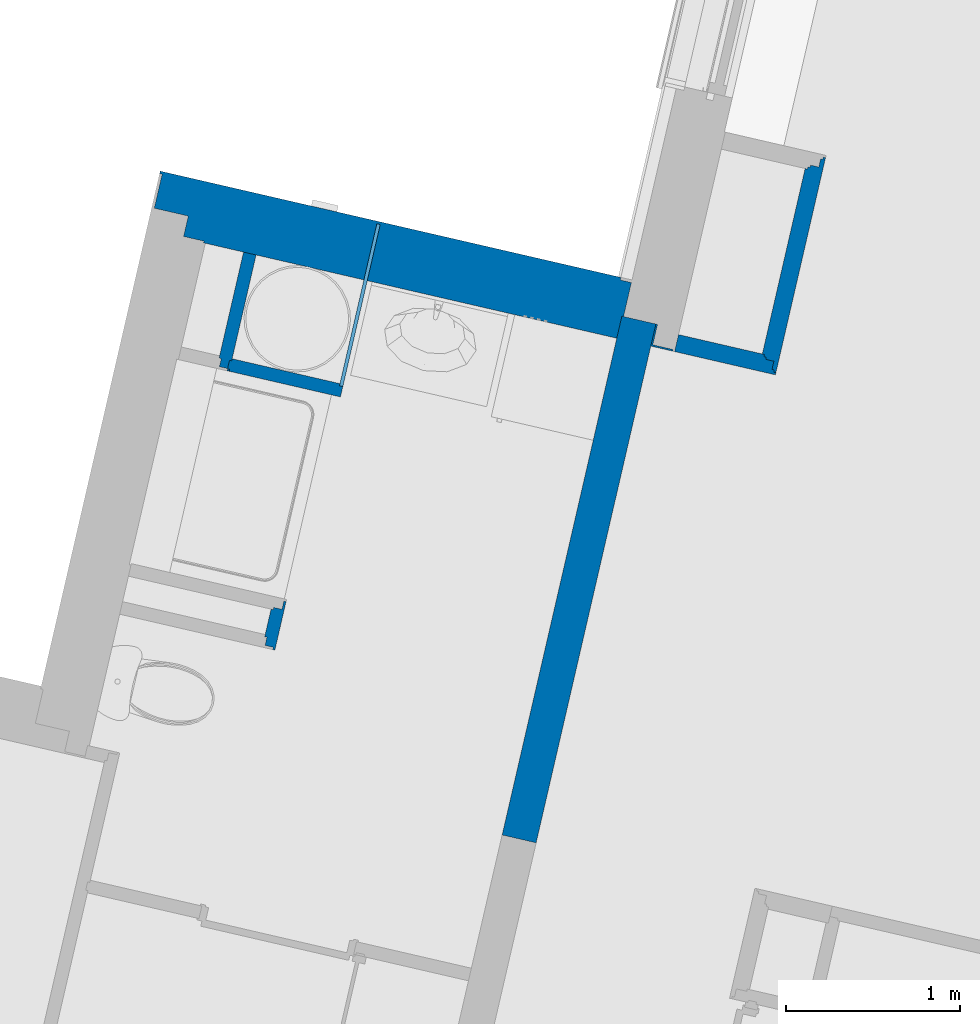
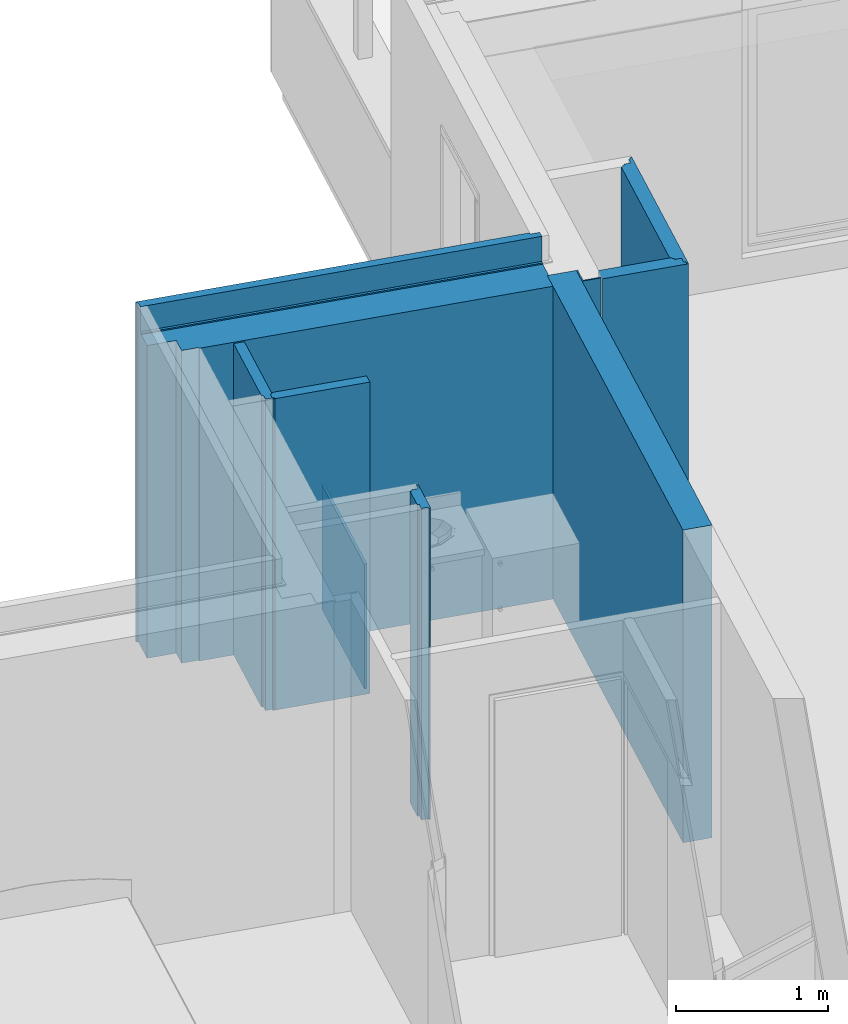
# One storey, part 32 of 62: 8 walls.
"""IFC2X3 building model written with IfcOpenShell, lengths in metres."""

from ifc_helpers import new_model, entity, si_unit, converted_unit, derived_unit, money_unit, direction, frame, origin_with_axes, place, context, subcontext, project, spatial, faceted_brep, material, material_list, type_object, element, save


model = new_model("IFC2X3")

# Units and contexts
model_context = context("Model", 3, precision=1e-05, world=origin_with_axes(), true_north=direction((0.0, 1.0)))
body_context = subcontext(model_context, "Body", "Model", "MODEL_VIEW")
ifc_project = project(units=[si_unit("LENGTHUNIT", "METRE"), si_unit("AREAUNIT", "SQUARE_METRE"), si_unit("VOLUMEUNIT", "CUBIC_METRE"), converted_unit("PLANEANGLEUNIT", "DEGREE", entity("IfcPlaneAngleMeasure", 0.0174532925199), si_unit("PLANEANGLEUNIT", "RADIAN"), dimensions=[0, 0, 0, 0, 0, 0, 0]), si_unit("SOLIDANGLEUNIT", "STERADIAN"), money_unit("EUR"), converted_unit("TIMEUNIT", "Year", entity("IfcTimeMeasure", 31556926.0), si_unit("TIMEUNIT", "SECOND"), dimensions=[0, 0, 1, 0, 0, 0, 0]), si_unit("MASSUNIT", "GRAM", prefix="KILO"), si_unit("THERMODYNAMICTEMPERATUREUNIT", "DEGREE_CELSIUS"), si_unit("LUMINOUSINTENSITYUNIT", "LUMEN"), si_unit("ENERGYUNIT", "JOULE", prefix="MEGA"), derived_unit("THERMALCONDUCTANCEUNIT", [(si_unit("POWERUNIT", "WATT"), 1), (si_unit("LENGTHUNIT", "METRE"), -1), (si_unit("THERMODYNAMICTEMPERATUREUNIT", "KELVIN"), -1)]), derived_unit("SPECIFICHEATCAPACITYUNIT", [(si_unit("ENERGYUNIT", "JOULE"), 1), (si_unit("MASSUNIT", "GRAM", prefix="KILO"), -1), (si_unit("THERMODYNAMICTEMPERATUREUNIT", "KELVIN"), -1)]), derived_unit("MASSDENSITYUNIT", [(si_unit("MASSUNIT", "GRAM", prefix="KILO"), 1), (si_unit("VOLUMEUNIT", "CUBIC_METRE"), -1)])], contexts=[model_context])

# Site, building, storey
site_placement = place(None, origin_with_axes())
site = spatial("IfcSite", under=ifc_project, at=site_placement, Name="Site", CompositionType="ELEMENT")
building_placement = place(site_placement, origin_with_axes())
building = spatial("IfcBuilding", under=site, at=building_placement, Name="Bâtiment", CompositionType="ELEMENT")
storey_placement = place(building_placement, frame((0.0, 0.0, 8.16), z_axis=(0.0, 0.0, 1.0), x_axis=(1.0, 0.0, 0.0)))
storey = spatial("IfcBuildingStorey", under=building, at=storey_placement, Name="R+3", CompositionType="ELEMENT", Elevation=8.16)

# Walls
ifc_material_1 = material(Name="Finition int - Plaque de plâtre")
ifc_material_2 = material(Name="Isolation - Polystyrène extrudé")
ifc_material_3 = material(Name="Bloc ELITHERM")
ifc_material_4 = material(Name="Mortier")
ifc_material_5 = material(Name="Béton cellulaire")
ifc_material_6 = material(Name="Finition ext - Crépis")
ifc_material_list_1 = material_list([ifc_material_1, ifc_material_2, ifc_material_3, ifc_material_4, ifc_material_5, ifc_material_6])
wall_type_1 = type_object("IfcWallType", Name="Mur ALKERN + planelle 21 345 x 2720", PredefinedType="USERDEFINED")
wall_1_placement = place(storey_placement, frame((-8.19769076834, 11.8040918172, 0.0), z_axis=(0.0, 0.0, 1.0), x_axis=(-0.974387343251, 0.224876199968, 0.0)))
element("IfcWall", 1, at=wall_1_placement, inside=storey, type_object=wall_type_1, material=ifc_material_list_1, Name="Mue bloc ALKERN isolé", ObjectType="SOLIDWALL", context=body_context, shape_type="Brep", body=[
    faceted_brep([(-0.33500001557, 0.335000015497, 0.0), (2.42531032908, 0.335000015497, 0.0), (2.42531032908, 0.335000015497, 2.51), (-0.33500001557, 0.335000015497, 2.51), (-0.335000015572, 0.34499998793, 0.0), (2.42531032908, 0.34499998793, 0.0), (2.42531032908, 0.34499998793, 2.51), (-0.335000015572, 0.34499998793, 2.51)], [[[0, 1, 2, 3]], [[4, 5, 1, 0]], [[5, 6, 2, 1]], [[3, 2, 6, 7]], [[4, 0, 3, 7]], [[7, 6, 5, 4]]]),
    faceted_brep([(-0.215000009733, 0.215000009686, 0.0), (2.54531035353, 0.215000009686, 0.0), (2.54531035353, 0.215000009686, 2.50999999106), (-0.215000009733, 0.215000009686, 2.51), (-0.215000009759, 0.335000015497, 0.0), (2.54531035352, 0.335000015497, 0.0), (2.54531035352, 0.335000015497, 2.50999999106), (-0.215000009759, 0.335000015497, 2.51)], [[[0, 1, 2, 3]], [[4, 5, 1, 0]], [[5, 6, 2, 1]], [[3, 2, 6, 7]], [[4, 0, 3, 7]], [[7, 6, 5, 4]]]),
    faceted_brep([(2.74531035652, 0.015, 0.0), (2.74531035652, 0.015, 2.50999999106), (-0.0150000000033, 0.015, 2.50999999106), (-0.0150000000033, 0.015, 0.0), (2.74531035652, 0.0829999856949, 2.50999999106), (2.74531035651, 0.214999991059, 0.0), (2.74531035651, 0.214999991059, 2.50999999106), (-0.0150000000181, 0.0829999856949, 2.50999999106), (-0.0150000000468, 0.214999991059, 2.50999999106), (-0.0150000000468, 0.214999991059, 0.0)], [[[0, 1, 2, 3]], [[4, 1, 0, 5, 6]], [[1, 4, 7, 2]], [[3, 2, 7, 8, 9]], [[5, 0, 3, 9]], [[6, 5, 9, 8]], [[4, 6, 8, 7]]]),
    faceted_brep([(2.74531035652, 0.015, 2.50999999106), (2.74531035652, 0.015, 2.51999999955), (-0.0150000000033, 0.015, 2.52), (-0.0150000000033, 0.015, 2.51), (2.74531035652, 0.083, 2.51999999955), (2.74531035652, 0.083, 2.50999999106), (-0.0150000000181, 0.083, 2.52), (-0.0150000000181, 0.083, 2.51)], [[[0, 1, 2, 3]], [[4, 1, 0, 5]], [[1, 4, 6, 2]], [[3, 2, 6, 7]], [[5, 0, 3, 7]], [[4, 5, 7, 6]]]),
    faceted_brep([(2.74531035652, 0.015, 2.51999999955), (2.74531035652, 0.015, 2.72), (-0.0150000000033, 0.015, 2.72), (-0.0150000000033, 0.015, 2.51999999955), (2.74531035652, 0.0629999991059, 2.72), (2.74531035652, 0.0629999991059, 2.51999999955), (-0.0150000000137, 0.0629999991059, 2.72), (-0.0150000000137, 0.0629999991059, 2.51999999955)], [[[0, 1, 2, 3]], [[4, 1, 0, 5]], [[1, 4, 6, 2]], [[3, 2, 6, 7]], [[5, 0, 3, 7]], [[4, 5, 7, 6]]]),
    faceted_brep([(2.76031033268, 0.0149999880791, 2.72), (0.0499999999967, 0.0149999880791, 2.72), (0.05, 0.0, 2.72), (2.76031033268, 0.0, 2.72), (0.0499999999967, 0.0149999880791, 0.0), (2.76031033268, 0.0149999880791, 0.0), (0.05, 0.0, 0.0), (2.76031033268, 0.0, 0.0)], [[[0, 1, 2, 3]], [[4, 1, 0, 5]], [[6, 2, 1, 4]], [[3, 2, 6, 7]], [[7, 5, 0, 3]], [[7, 6, 4, 5]]]),
])
ifc_material_7 = material(Name="Isolation - Laine de roche")
ifc_material_list_2 = material_list([ifc_material_1, ifc_material_7, ifc_material_1])
wall_type_2 = type_object("IfcWallType", Name="3 - Cloison 72mm Placostil 74", PredefinedType="USERDEFINED")
wall_2_placement = place(storey_placement, frame((-9.85394506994, 11.1302860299, 0.0), z_axis=(0.0, 0.0, 1.0), x_axis=(-0.974387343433, 0.224876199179, 0.0)))
element("IfcWall", 2, at=wall_2_placement, inside=storey, type_object=wall_type_2, material=ifc_material_list_2, Name="Cloison Placostil 72/48", ObjectType="PARTITIONING", context=body_context, shape_type="Brep", body=[
    faceted_brep([(0.0, -0.013, 0.0), (0.654000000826, -0.013, 0.0), (0.654000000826, -0.0130000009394, 2.5), (0.0, -0.0130000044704, 2.5), (0.0, 0.0, 0.0), (0.654000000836, 0.0, 0.0), (0.654000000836, 0.0, 2.5), (0.0, 4.47035475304e-09, 2.5), (0.0, 4.47035475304e-09, 1.0)], [[[0, 1, 2, 3]], [[4, 5, 1, 0]], [[5, 6, 2, 1]], [[3, 2, 6, 7]], [[4, 0, 3, 7, 8]], [[7, 6, 5, 4, 8]]]),
    faceted_brep([(0.0, -0.061, 0.0), (0.667000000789, -0.061, 0.0), (0.667000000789, -0.0609999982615, 2.5), (0.0, -0.0609999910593, 2.5), (0.0, -0.013, 0.0), (0.667000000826, -0.0130000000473, 0.0), (0.667000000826, -0.0130000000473, 2.5), (0.0, -0.0130000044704, 2.5)], [[[0, 1, 2, 3]], [[4, 5, 1, 0]], [[5, 6, 2, 1]], [[3, 2, 6, 7]], [[4, 0, 3, 7]], [[7, 6, 5, 4]]]),
    faceted_brep([(0.0, -0.0609999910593, 2.5), (0.0, -0.0609999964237, 1.0), (0.0, -0.074, 1.0), (0.0, -0.074, 2.5), (0.0199999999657, -0.061, 0.0), (0.0199999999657, -0.0609999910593, 1.0), (0.654000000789, -0.0609999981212, 2.5), (0.654000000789, -0.061, 0.0), (0.0199999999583, -0.074, 1.0), (0.0199999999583, -0.074, 0.0), (0.654000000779, -0.074, 0.0), (0.654000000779, -0.074, 2.5)], [[[0, 1, 2, 3]], [[4, 5, 1, 0, 6, 7]], [[5, 8, 2, 1]], [[2, 8, 9, 10, 11, 3]], [[3, 11, 6, 0]], [[4, 9, 8, 5]], [[7, 6, 11, 10]], [[10, 9, 4, 7]]]),
])
ifc_material_8 = material(Name="Finition int - Enduit plâtre")
ifc_material_9 = material(Name="Béton")
ifc_material_list_3 = material_list([ifc_material_8, ifc_material_9, ifc_material_8])
wall_type_3 = type_object("IfcWallType", Name="2 - Murs Béton 18 + Enduit 2 Faces 200", PredefinedType="USERDEFINED")
wall_3_placement = place(storey_placement, frame((-8.23142331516, 11.5912253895, 0.0), z_axis=(0.0, 0.0, 1.0), x_axis=(-0.224876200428, -0.974387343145, 0.0)))
element("IfcWall", 3, at=wall_3_placement, inside=storey, type_object=wall_type_3, material=ifc_material_list_3, Name="M_Ext-009", ObjectType="SOLIDWALL", context=body_context, shape_type="Brep", body=[
    faceted_brep([(0.0, 0.19, 0.0), (3.05159789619, 0.19, 0.0), (3.05159789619, 0.18, 0.0), (0.0, 0.18, 0.0), (0.0, 0.19, 2.51), (3.05159789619, 0.19, 2.51), (3.05159789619, 0.18, 2.51), (0.0, 0.18, 2.51)], [[[0, 1, 2, 3]], [[4, 5, 1, 0]], [[2, 1, 5, 6]], [[3, 2, 6, 7]], [[4, 0, 3, 7]], [[7, 6, 5, 4]]]),
    faceted_brep([(0.0, 0.18, 0.0), (3.05159789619, 0.18, 0.0), (3.05159789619, 0.0, 0.0), (0.0, 0.0, 0.0), (0.0, 0.18, 2.51), (3.05159789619, 0.18, 2.51), (3.05159789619, 0.0, 2.51), (0.0, 0.0, 2.51)], [[[0, 1, 2, 3]], [[4, 5, 1, 0]], [[2, 1, 5, 6]], [[3, 2, 6, 7]], [[4, 0, 3, 7]], [[7, 6, 5, 4]]]),
    faceted_brep([(0.0, 0.0, 0.0), (3.05159789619, 0.0, 0.0), (3.05159789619, -0.01, 0.0), (0.0, -0.01, 0.0), (0.0, 0.0, 2.51), (3.05159789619, 0.0, 2.51), (3.05159789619, -0.01, 2.51), (0.0, -0.01, 2.51)], [[[0, 1, 2, 3]], [[4, 5, 1, 0]], [[2, 1, 5, 6]], [[3, 2, 6, 7]], [[4, 0, 3, 7]], [[7, 6, 5, 4]]]),
])
wall_type_4 = type_object("IfcWallType", Name="3 - Cloison Gaine Technique 72mm 74", PredefinedType="USERDEFINED")
wall_4_placement = place(storey_placement, frame((-10.1627720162, 9.97001626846, 0.0), z_axis=(0.0, 0.0, 1.0), x_axis=(-0.224876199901, -0.974387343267, 0.0)))
element("IfcWall", 4, at=wall_4_placement, inside=storey, type_object=wall_type_4, material=ifc_material_list_2, Name="Cloison Placostil 72/48", ObjectType="PARTITIONING", context=body_context, shape_type="Brep", body=[
    faceted_brep([(0.297597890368, -0.013, 2.5), (0.297597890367, 0.0, 2.5), (0.013, 0.0, 2.5), (0.0129999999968, -0.013, 2.5), (0.297597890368, -0.013, 0.0), (0.297597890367, 0.0, 0.0), (0.013, 0.0, 0.0), (0.0129999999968, -0.013, 0.0)], [[[0, 1, 2, 3]], [[1, 0, 4, 5]], [[1, 5, 6, 2]], [[7, 3, 2, 6]], [[4, 0, 3, 7]], [[5, 4, 7, 6]]]),
    faceted_brep([(0.28459789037, -0.061, 2.5), (0.284597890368, -0.013, 2.5), (0.0609999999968, -0.013, 2.5), (0.0609999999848, -0.061, 2.5), (0.28459789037, -0.061, 0.0), (0.284597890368, -0.013, 0.0), (0.0609999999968, -0.013, 0.0), (0.0609999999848, -0.061, 0.0)], [[[0, 1, 2, 3]], [[1, 0, 4, 5]], [[1, 5, 6, 2]], [[7, 3, 2, 6]], [[4, 0, 3, 7]], [[5, 4, 7, 6]]]),
    faceted_brep([(0.236597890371, -0.074, 2.5), (0.23659789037, -0.061, 2.5), (0.0739999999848, -0.061, 2.5), (0.0739999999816, -0.074, 2.5), (0.236597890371, -0.074, 0.0), (0.23659789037, -0.061, 0.0), (0.0739999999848, -0.061, 0.0), (0.0739999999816, -0.074, 0.0)], [[[0, 1, 2, 3]], [[1, 0, 4, 5]], [[1, 5, 6, 2]], [[7, 3, 2, 6]], [[4, 0, 3, 7]], [[5, 4, 7, 6]]]),
])
wall_5_placement = place(storey_placement, frame((-10.3373790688, 11.9438360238, 0.0), z_axis=(0.0, 0.0, 1.0), x_axis=(-0.224876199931, -0.97438734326, 0.0)))
element("IfcWall", 5, at=wall_5_placement, inside=storey, type_object=wall_type_4, material=ifc_material_list_2, Name="Cloison Placostil 72/48", ObjectType="PARTITIONING", context=body_context, shape_type="Brep", body=[
    faceted_brep([(0.68400001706, 0.0, 0.0), (0.671000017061, 0.0, 0.0), (0.671000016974, 0.0, 2.5), (0.68400001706, 0.0, 2.5), (0.68400001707, -0.013, 0.0), (0.67100001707, -0.013, 0.0), (0.67100001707, -0.013, 2.5), (0.68400001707, -0.013, 2.5)], [[[0, 1, 2, 3]], [[4, 5, 1, 0]], [[5, 6, 2, 1]], [[3, 2, 6, 7]], [[0, 3, 7, 4]], [[7, 6, 5, 4]]]),
    faceted_brep([(0.0, -0.013, 2.5), (0.623000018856, -0.013, 2.5), (0.623000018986, 0.0, 2.5), (0.0, 0.0, 2.5), (0.0, -0.013, 0.0), (0.623000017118, -0.013, 0.0), (0.623000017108, 0.0, 0.0), (0.0, 0.0, 0.0)], [[[0, 1, 2, 3]], [[4, 5, 1, 0]], [[5, 6, 2, 1]], [[3, 2, 6, 7]], [[7, 4, 0, 3]], [[7, 6, 5, 4]]]),
    faceted_brep([(0.0, -0.061, 2.5), (0.67100001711, -0.061, 2.5), (0.67100001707, -0.013, 2.5), (0.0, -0.013, 2.5), (0.0, -0.061, 0.0), (0.67100001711, -0.061, 0.0), (0.67100001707, -0.013, 0.0), (0.0, -0.013, 0.0)], [[[0, 1, 2, 3]], [[4, 5, 1, 0]], [[6, 2, 1, 5]], [[3, 2, 6, 7]], [[7, 4, 0, 3]], [[7, 6, 5, 4]]]),
    faceted_brep([(0.62300001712, -0.074, 2.5), (0.62300001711, -0.061, 2.5), (0.0, -0.061, 2.5), (0.0, -0.074, 2.5), (0.62300001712, -0.074, 0.0), (0.62300001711, -0.061, 0.0), (0.0, -0.061, 0.0), (0.0, -0.074, 0.0)], [[[0, 1, 2, 3]], [[1, 0, 4, 5]], [[1, 5, 6, 2]], [[7, 3, 2, 6]], [[4, 0, 3, 7]], [[5, 4, 7, 6]]]),
])
ifc_material_list_4 = material_list([ifc_material_1, ifc_material_1, ifc_material_7, ifc_material_1, ifc_material_1])
wall_type_5 = type_object("IfcWallType", Name="3 - Cloison Gaine Technique 98mm 100", PredefinedType="USERDEFINED")
wall_6_placement = place(storey_placement, frame((-7.36129770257, 11.2569943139, 0.0), z_axis=(0.0, 0.0, 1.0), x_axis=(0.224876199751, 0.974387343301, 0.0)))
element("IfcWall", 6, at=wall_6_placement, inside=storey, type_object=wall_type_5, material=ifc_material_list_4, Name="Cloison 98 isolée", ObjectType="PARTITIONING", context=body_context, shape_type="Brep", body=[
    faceted_brep([(1.19057293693, 0.1, 0.0), (1.19057293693, 0.087, 0.0), (0.0999999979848, 0.087, 0.0), (0.0999999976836, 0.1, 0.0), (1.19057293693, 0.1, 2.5), (1.19057293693, 0.087, 2.5), (0.0999999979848, 0.087, 2.5), (0.0999999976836, 0.1, 2.5)], [[[0, 1, 2, 3]], [[1, 0, 4, 5]], [[1, 5, 6, 2]], [[7, 3, 2, 6]], [[4, 0, 3, 7]], [[5, 4, 7, 6]]]),
    faceted_brep([(1.20357293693, 0.087, 0.0), (1.20357293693, 0.074, 0.0), (0.0869999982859, 0.074, 0.0), (0.0869999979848, 0.087, 0.0), (1.20357293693, 0.087, 2.5), (1.20357293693, 0.074, 2.5), (0.0869999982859, 0.074, 2.5), (0.0869999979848, 0.087, 2.5)], [[[0, 1, 2, 3]], [[1, 0, 4, 5]], [[1, 5, 6, 2]], [[7, 3, 2, 6]], [[4, 0, 3, 7]], [[5, 4, 7, 6]]]),
    faceted_brep([(1.21657293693, 0.074, 0.0), (1.21657293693, 0.026, 0.0), (0.0739999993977, 0.026, 0.0), (0.0739999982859, 0.074, 0.0), (1.21657293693, 0.074, 2.5), (1.21657293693, 0.026, 2.5), (0.0739999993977, 0.026, 2.5), (0.0739999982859, 0.074, 2.5)], [[[0, 1, 2, 3]], [[1, 0, 4, 5]], [[1, 5, 6, 2]], [[7, 3, 2, 6]], [[4, 0, 3, 7]], [[5, 4, 7, 6]]]),
    faceted_brep([(1.26457293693, 0.026, 0.0), (1.26457293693, 0.013, 0.0), (0.0259999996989, 0.013, 0.0), (0.0259999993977, 0.026, 0.0), (1.26457293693, 0.026, 2.5), (1.26457293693, 0.013, 2.5), (0.0259999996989, 0.013, 2.5), (0.0259999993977, 0.026, 2.5)], [[[0, 1, 2, 3]], [[1, 0, 4, 5]], [[1, 5, 6, 2]], [[7, 3, 2, 6]], [[4, 0, 3, 7]], [[5, 4, 7, 6]]]),
    faceted_brep([(1.27757293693, 0.013, 0.0), (1.27757293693, 0.0, 0.0), (0.013, 0.0, 0.0), (0.0129999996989, 0.013, 0.0), (1.27757293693, 0.013, 2.5), (1.27757293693, 0.0, 2.5), (0.013, 0.0, 2.5), (0.0129999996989, 0.013, 2.5)], [[[0, 1, 2, 3]], [[1, 0, 4, 5]], [[1, 5, 6, 2]], [[7, 3, 2, 6]], [[4, 0, 3, 7]], [[5, 4, 7, 6]]]),
])
wall_7_placement = place(storey_placement, frame((-7.36129770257, 11.2569943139, 0.0), z_axis=(0.0, 0.0, 1.0), x_axis=(-0.97438734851, 0.224876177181, 0.0)))
element("IfcWall", 7, at=wall_7_placement, inside=storey, type_object=wall_type_5, material=ifc_material_list_4, Name="Cloison 98 isolée", ObjectType="PARTITIONING", context=body_context, shape_type="Brep", body=[
    faceted_brep([(-3.01126235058e-10, -0.013, 2.5), (0.592999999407, -0.013, 2.5), (0.592999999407, 0.0, 2.5), (0.0, 0.0, 2.5), (-3.01126235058e-10, -0.013, 0.0), (0.592999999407, -0.013, 0.0), (0.592999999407, 0.0, 0.0), (0.0, 0.0, 0.0)], [[[0, 1, 2, 3]], [[4, 5, 1, 0]], [[2, 1, 5, 6]], [[3, 2, 6, 7]], [[4, 0, 3, 7]], [[7, 6, 5, 4]]]),
    faceted_brep([(0.0129999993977, -0.026, 2.5), (0.592999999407, -0.026, 2.5), (0.592999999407, -0.013, 2.5), (0.0129999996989, -0.013, 2.5), (0.0129999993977, -0.026, 0.0), (0.592999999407, -0.026, 0.0), (0.592999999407, -0.013, 0.0), (0.0129999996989, -0.013, 0.0)], [[[0, 1, 2, 3]], [[4, 5, 1, 0]], [[2, 1, 5, 6]], [[3, 2, 6, 7]], [[4, 0, 3, 7]], [[7, 6, 5, 4]]]),
    faceted_brep([(0.0259999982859, -0.074, 2.5), (0.592999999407, -0.074, 2.5), (0.592999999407, -0.026, 2.5), (0.0259999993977, -0.026, 2.5), (0.0259999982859, -0.074, 0.0), (0.592999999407, -0.074, 0.0), (0.592999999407, -0.026, 0.0), (0.0259999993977, -0.026, 0.0)], [[[0, 1, 2, 3]], [[4, 5, 1, 0]], [[2, 1, 5, 6]], [[3, 2, 6, 7]], [[4, 0, 3, 7]], [[7, 6, 5, 4]]]),
    faceted_brep([(0.0739999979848, -0.087, 2.5), (0.592999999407, -0.087, 2.5), (0.592999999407, -0.074, 2.5), (0.0739999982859, -0.074, 2.5), (0.0739999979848, -0.087, 0.0), (0.592999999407, -0.087, 0.0), (0.592999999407, -0.074, 0.0), (0.0739999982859, -0.074, 0.0)], [[[0, 1, 2, 3]], [[4, 5, 1, 0]], [[2, 1, 5, 6]], [[3, 2, 6, 7]], [[4, 0, 3, 7]], [[7, 6, 5, 4]]]),
    faceted_brep([(0.0869999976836, -0.1, 2.5), (0.592999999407, -0.1, 2.5), (0.592999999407, -0.087, 2.5), (0.0869999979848, -0.087, 2.5), (0.0869999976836, -0.1, 0.0), (0.592999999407, -0.1, 0.0), (0.592999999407, -0.087, 0.0), (0.0869999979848, -0.087, 0.0)], [[[0, 1, 2, 3]], [[4, 5, 1, 0]], [[2, 1, 5, 6]], [[3, 2, 6, 7]], [[4, 0, 3, 7]], [[7, 6, 5, 4]]]),
])
ifc_material_10 = material(Name="Bois - Mélaminé blanc")
wall_type_6 = type_object("IfcWallType", Name="Bois - Mélaminé blanc 20", PredefinedType="USERDEFINED")
wall_8_placement = place(storey_placement, frame((-9.85394506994, 11.1302860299, 0.0), z_axis=(0.0, 0.0, 1.0), x_axis=(0.224876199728, 0.974387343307, 0.0)))
element("IfcWall", 8, at=wall_8_placement, inside=storey, type_object=wall_type_6, material=ifc_material_10, Name="Panneaux 20mm mélaminé blanc", ObjectType="PARTITIONING", context=body_context, shape_type="Brep", body=[
    faceted_brep([(0.061, 0.0, 0.0), (0.0609999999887, 0.02, 0.0), (1.01400000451, 0.02, 0.0), (1.01400000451, 0.0, 0.0), (0.061, 0.0, 1.0), (0.0609999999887, 0.02, 1.0), (1.01400000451, 0.02, 1.0), (1.01400000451, 0.0, 1.0)], [[[0, 1, 2, 3]], [[4, 5, 1, 0]], [[1, 5, 6, 2]], [[7, 3, 2, 6]], [[4, 0, 3, 7]], [[5, 4, 7, 6]]]),
])

save(model, "model.ifc")
